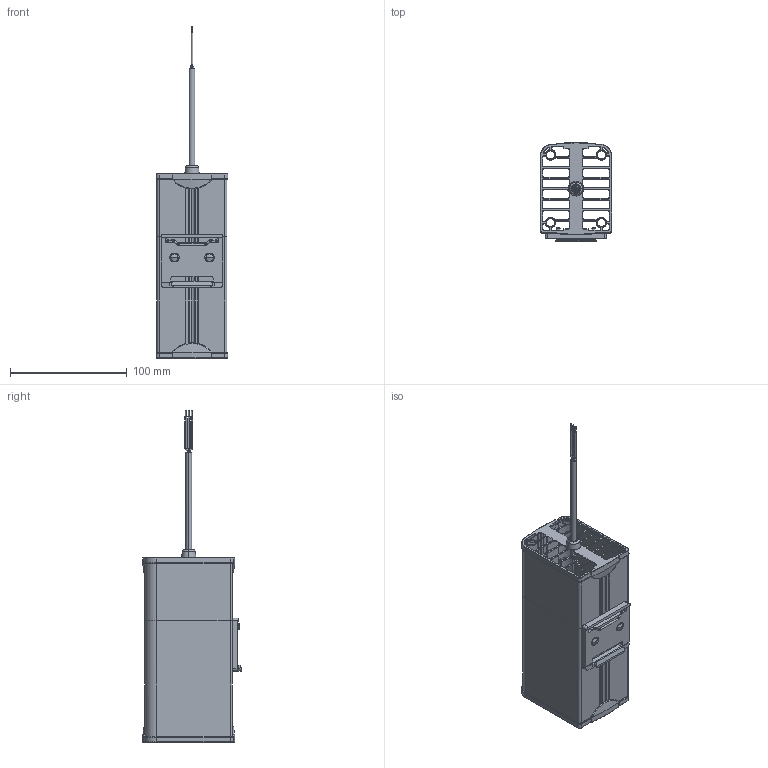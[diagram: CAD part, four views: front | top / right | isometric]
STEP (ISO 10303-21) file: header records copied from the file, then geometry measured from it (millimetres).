
FILE_DESCRIPTION(/* description */ (''),/* implementation_level */ '2;1');
FILE_NAME(/* name */ 'HWM080-100',/* time_stamp */ '2025-11-10T14:12:14+01:00',/* author */ (''),/* organization */ (''),/* preprocessor_version */ 'ST-DEVELOPER v16.5',/* originating_system */ 'Rhino 7.38',/* authorisation */ '');
FILE_SCHEMA (('AUTOMOTIVE_DESIGN'));
Length unit declared in the file: millimetre
Products named in the file (5): Document; InstanceDefinition 04; InstanceDefinition 11; InstanceDefinition 08; InstanceDefinition 13
Assembly tree (5 placements, depth 2):
  Document
    InstanceDefinition 04  x2
    InstanceDefinition 11
    InstanceDefinition 08
    InstanceDefinition 13
Bounding box: 61.57 x 84.86 x 285 mm (x, y, z)
Volume: 9708.6 mm3; surface area: 59705.8 mm2
Topology: 5 solids, 8 shells, 1199 faces, 3245 edges, 2058 vertices
Faces by surface type: cylinder 512, bspline 484, plane 203
Entity records: 63961 total; most frequent: CARTESIAN_POINT 45692, ORIENTED_EDGE 5810, EDGE_CURVE 3213, VERTEX_POINT 2044, EDGE_LOOP 1258, B_SPLINE_CURVE_WITH_KNOTS 1195, ADVANCED_FACE 1186, FACE_OUTER_BOUND 1186
